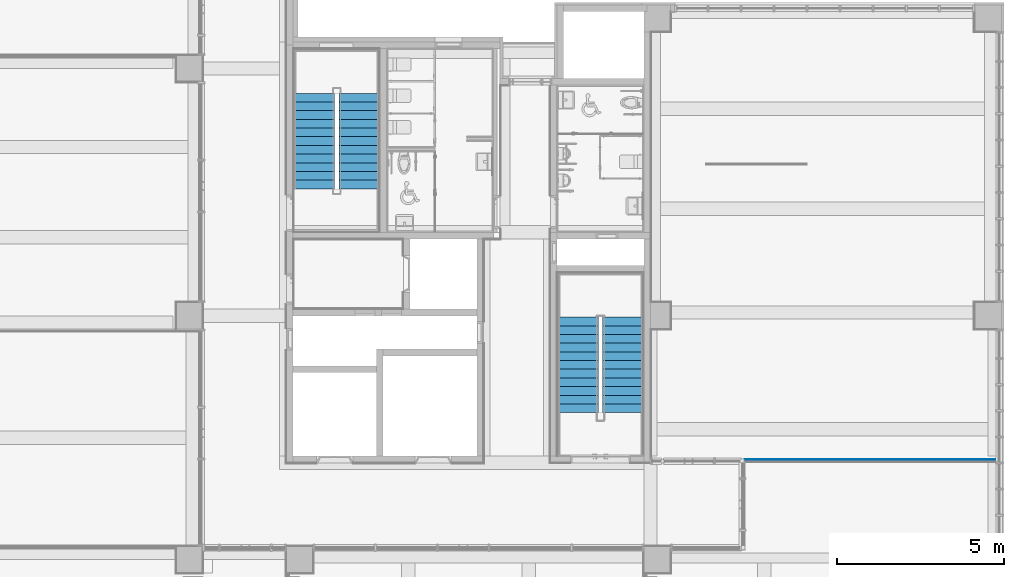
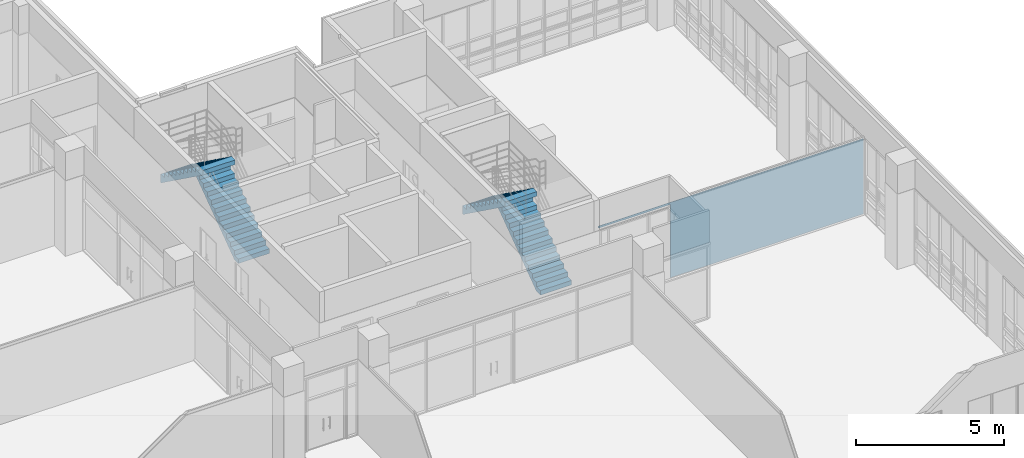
# One storey, part 65 of 74: 4 stair flights, 1 wall, 2 elements without a shape of their own.
"""IFC2X3 building model written with IfcOpenShell, lengths in millimetres."""

import ifcopenshell
import ifcopenshell.guid

model = None  # the IFC model being written
_history = None  # IfcOwnerHistory: only IFC2X3 demands one
_inside = {}  # id of a spatial element -> (the spatial element, [elements in it])
_under = {}  # id of a project, library or spatial element -> (it, [spatial elements below it])
_declared = {}  # id of a project -> (the project, [libraries it declares])
_typed = {}  # id of a type object -> (the type object, [elements of that type])
_made_of = {}  # id of a material, layer set ... -> (it, [elements and type objects made of it])


def new_model(schema):
    """Start an empty IFC model of exactly this schema.

    Asked for "IFC4X3", IfcOpenShell would pick the latest addendum, in which some entities
    have other attributes; the version numbers below select the first issue.
    IFC2X3 requires an IfcOwnerHistory on every rooted entity: one is made here for all.
    """
    global model, _history
    if schema == "IFC4X3":
        model = ifcopenshell.file(schema_version=(4, 3, 0, 0))
    else:
        model = ifcopenshell.file(schema=schema)
    _inside.clear()
    _under.clear()
    _declared.clear()
    _typed.clear()
    _made_of.clear()
    _history = None
    if model.schema == "IFC2X3":
        org = make("IfcOrganization", Name="unknown")
        user = make(
            "IfcPersonAndOrganization",
            ThePerson=make("IfcPerson", FamilyName="unknown"),
            TheOrganization=org,
        )
        app = make(
            "IfcApplication",
            ApplicationDeveloper=org,
            Version="unknown",
            ApplicationFullName="unknown",
            ApplicationIdentifier="unknown",
        )
        _history = make(
            "IfcOwnerHistory",
            OwningUser=user,
            OwningApplication=app,
            ChangeAction="ADDED",
            CreationDate=0,
        )
    return model


def make(cls, **values):
    """One entity of the class cls with the attributes given. An attribute that is None is left unset."""
    return model.create_entity(
        cls, **{name: value for name, value in values.items() if value is not None}
    )


def entity(cls, *values):
    """Any entity or typed value of the class cls, its attributes in the order of the schema. None: left unset."""
    e = model.create_entity(cls)
    for i, value in enumerate(values):
        if value is not None:
            e[i] = value
    return e


def rooted(cls, **values):
    """An entity with a GlobalId (a new one), such as an element, a storey or a relation."""
    return make(cls, GlobalId=ifcopenshell.guid.new(), OwnerHistory=_history, **values)


def si_unit(unit_type, name, prefix=None):
    """IfcSIUnit, for example si_unit("LENGTHUNIT", "METRE", prefix="MILLI")."""
    return make("IfcSIUnit", UnitType=unit_type, Prefix=prefix, Name=name)


def converted_unit(unit_type, name, factor, base, dimensions=None, offset=None):
    """IfcConversionBasedUnit, such as the inch: factor (a typed value) times the base unit."""
    return make(
        "IfcConversionBasedUnit"
        if offset is None
        else "IfcConversionBasedUnitWithOffset",
        ConversionOffset=offset,
        Dimensions=None
        if dimensions is None
        else entity("IfcDimensionalExponents", *dimensions),
        UnitType=unit_type,
        Name=name,
        ConversionFactor=make(
            "IfcMeasureWithUnit", ValueComponent=factor, UnitComponent=base
        ),
    )


def derived_unit(unit_type, elements):
    """IfcDerivedUnit: a product of units, each with its exponent."""
    return make(
        "IfcDerivedUnit",
        Elements=[
            make("IfcDerivedUnitElement", Unit=unit, Exponent=power)
            for unit, power in elements
        ],
        UnitType=unit_type,
    )


def assignment(units):
    """IfcUnitAssignment: the units of a project."""
    return None if units is None else make("IfcUnitAssignment", Units=units)


def point(xyz):
    """IfcCartesianPoint."""
    return None if xyz is None else make("IfcCartesianPoint", Coordinates=xyz)


def direction(xyz):
    """IfcDirection."""
    return None if xyz is None else make("IfcDirection", DirectionRatios=xyz)


def frame(location, z_axis=None, x_axis=None):
    """IfcAxis2Placement3D, a coordinate frame: its origin and axes. An axis left out is left unset."""
    return make(
        "IfcAxis2Placement3D",
        Location=point(location),
        Axis=direction(z_axis),
        RefDirection=direction(x_axis),
    )


def origin():
    """The frame at (0, 0, 0) with its axes left unset."""
    return frame((0.0, 0.0, 0.0))


def place(relative_to, where):
    """IfcLocalPlacement: puts the frame where relative to a parent placement (None: the world)."""
    return make(
        "IfcLocalPlacement", PlacementRelTo=relative_to, RelativePlacement=where
    )


def context(
    kind, dimensions, precision=None, world=None, true_north=None, identifier=None
):
    """IfcGeometricRepresentationContext, for example the 3D "Model" context."""
    return make(
        "IfcGeometricRepresentationContext",
        ContextIdentifier=identifier,
        ContextType=kind,
        CoordinateSpaceDimension=dimensions,
        Precision=precision,
        WorldCoordinateSystem=world,
        TrueNorth=true_north,
    )


def subcontext(parent, identifier, kind, view, scale=None):
    """IfcGeometricRepresentationSubContext, for example "Body" below "Model"."""
    return make(
        "IfcGeometricRepresentationSubContext",
        ContextIdentifier=identifier,
        ContextType=kind,
        ParentContext=parent,
        TargetScale=scale,
        TargetView=view,
    )


def project(units=None, contexts=None):
    """IfcProject with its units and contexts."""
    return rooted(
        "IfcProject",
        Name="project",
        RepresentationContexts=contexts,
        UnitsInContext=assignment(units),
    )


def spatial(cls, under=None, at=None, **own):
    """A site, building, storey or space (cls), placed at a placement, below another one or the project."""
    s = rooted(cls, ObjectPlacement=at, **own)
    if under is not None:
        _under.setdefault(under.id(), (under, []))[1].append(s)
    return s


def faces_of(points, faces, orient=None, outer=None):
    """IfcFace entities. A face is a list of loops; a loop is a list of indices into points, from 0.

    orient and outer hold one flag for each loop. By default every Orientation is true, the
    first loop of a face is its IfcFaceOuterBound and the others are IfcFaceBound.
    """
    made = []
    for i, loops in enumerate(faces):
        bounds = []
        for j, loop in enumerate(loops):
            is_outer = j == 0 if outer is None else outer[i][j]
            bounds.append(
                make(
                    "IfcFaceOuterBound" if is_outer else "IfcFaceBound",
                    Bound=make("IfcPolyLoop", Polygon=[points[k] for k in loop]),
                    Orientation=True if orient is None else orient[i][j],
                )
            )
        made.append(make("IfcFace", Bounds=bounds))
    return made


def faceted_brep(points, faces, orient=None, outer=None, voids=None):
    """IfcFacetedBrep: a solid bounded by flat faces; with voids (closed shells), ...WithVoids."""
    shared = [point(p) for p in points]
    hull = make("IfcClosedShell", CfsFaces=faces_of(shared, faces, orient, outer))
    if voids is None:
        return make("IfcFacetedBrep", Outer=hull)
    return make(
        "IfcFacetedBrepWithVoids",
        Outer=hull,
        Voids=[
            make(cls, CfsFaces=faces_of(shared, fs, o, b)) for cls, fs, o, b in voids
        ],
    )


def shape(context_of_items, identifier, shape_type, items):
    """IfcShapeRepresentation: the items that make up one representation, for example the "Body"."""
    return make(
        "IfcShapeRepresentation",
        ContextOfItems=context_of_items,
        RepresentationIdentifier=identifier,
        RepresentationType=shape_type,
        Items=items,
    )


def material(Name=None, Category=None):
    """IfcMaterial."""
    return make("IfcMaterial", Name=Name, Category=Category)


def layer(
    of_material, thickness, ventilated=None, Name=None, Category=None, Priority=None
):
    """IfcMaterialLayer: one layer of a wall or slab, of a material (None: an air gap)."""
    return make(
        "IfcMaterialLayer",
        Material=of_material,
        LayerThickness=thickness,
        IsVentilated=ventilated,
        Name=Name,
        Category=Category,
        Priority=Priority,
    )


def layer_set(layers, Name=None):
    """IfcMaterialLayerSet."""
    return make("IfcMaterialLayerSet", MaterialLayers=layers, LayerSetName=Name)


def made_of(thing, what):
    """Note that an element or type object is made of a material, layer set ...; save() writes the relation."""
    if what is not None:
        _made_of.setdefault(what.id(), (what, []))[1].append(thing)
    return thing


def type_object(cls, material=None, **own):
    """A type object (cls), such as IfcWallType, which elements share."""
    return made_of(rooted(cls, **own), material)


def element(
    cls,
    number,
    at=None,
    inside=None,
    cuts=None,
    type_object=None,
    material=None,
    context=None,
    identifier="Body",
    shape_type=None,
    held_by="IfcProductDefinitionShape",
    body=None,
    shapes=None,
    **own,
):
    """One element of the class cls, such as IfcWall. Its Tag is "e" and its number.

    at: its placement. inside: the storey or other place that contains it. cuts: it is an
    opening in that element (IfcRelVoidsElement). A single representation is given by context,
    identifier, shape_type and body (its items); several are given by shapes. held_by: the class
    of the entity that holds the representations. save() writes the other relations.
    """
    e = rooted(cls, Tag="e%d" % number, ObjectPlacement=at, **own)
    if body is not None:
        shapes = [shape(context, identifier, shape_type, body)]
    if shapes is not None:
        e.Representation = make(held_by, Representations=shapes)
    if inside is not None:
        _inside.setdefault(inside.id(), (inside, []))[1].append(e)
    if cuts is not None:
        rooted(
            "IfcRelVoidsElement", RelatingBuildingElement=cuts, RelatedOpeningElement=e
        )
    if type_object is not None:
        _typed.setdefault(type_object.id(), (type_object, []))[1].append(e)
    return made_of(e, material)


def aggregate(whole, parts):
    """IfcRelAggregates: a whole, such as a stair, and the parts it consists of."""
    return rooted("IfcRelAggregates", RelatingObject=whole, RelatedObjects=parts)


def save(model, path):
    """Write the relations noted so far, then the file.

    IfcRelAggregates (storeys below a building ...), IfcRelContainedInSpatialStructure (elements
    in a storey), IfcRelDefinesByType, IfcRelAssociatesMaterial and IfcRelDeclares: one each for
    every whole, place, type object, material and project.
    """
    for whole, parts in _under.values():
        aggregate(whole, parts)
    for where, things in _inside.values():
        rooted(
            "IfcRelContainedInSpatialStructure",
            RelatedElements=things,
            RelatingStructure=where,
        )
    for kind, things in _typed.values():
        rooted("IfcRelDefinesByType", RelatedObjects=things, RelatingType=kind)
    for what, things in _made_of.values():
        rooted("IfcRelAssociatesMaterial", RelatedObjects=things, RelatingMaterial=what)
    for by, libraries in _declared.values():
        rooted("IfcRelDeclares", RelatingContext=by, RelatedDefinitions=libraries)
    model.write(path)


model = new_model("IFC2X3")

# Units and contexts
model_context = context("Model", 3, precision=0.01, world=origin(), true_north=direction((6.123031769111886e-17, 1.0)))
body_context = subcontext(model_context, "Body", "Model", "MODEL_VIEW")
ifc_project = project(units=[si_unit("LENGTHUNIT", "METRE", prefix="MILLI"), si_unit("AREAUNIT", "SQUARE_METRE"), si_unit("VOLUMEUNIT", "CUBIC_METRE"), converted_unit("PLANEANGLEUNIT", "DEGREE", entity("IfcRatioMeasure", 0.017453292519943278), si_unit("PLANEANGLEUNIT", "RADIAN"), dimensions=[0, 0, 0, 0, 0, 0, 0]), si_unit("MASSUNIT", "GRAM", prefix="KILO"), derived_unit("MASSDENSITYUNIT", [(si_unit("MASSUNIT", "GRAM", prefix="KILO"), 1), (si_unit("LENGTHUNIT", "METRE"), -3)]), derived_unit("MOMENTOFINERTIAUNIT", [(si_unit("LENGTHUNIT", "METRE"), 4)]), si_unit("TIMEUNIT", "SECOND"), si_unit("FREQUENCYUNIT", "HERTZ"), si_unit("THERMODYNAMICTEMPERATUREUNIT", "DEGREE_CELSIUS"), derived_unit("THERMALTRANSMITTANCEUNIT", [(si_unit("MASSUNIT", "GRAM", prefix="KILO"), 1), (si_unit("THERMODYNAMICTEMPERATUREUNIT", "KELVIN"), -1), (si_unit("TIMEUNIT", "SECOND"), -3)]), derived_unit("VOLUMETRICFLOWRATEUNIT", [(si_unit("LENGTHUNIT", "METRE"), 3), (si_unit("TIMEUNIT", "SECOND"), -1)]), derived_unit("MASSFLOWRATEUNIT", [(si_unit("MASSUNIT", "GRAM", prefix="KILO"), 1), (si_unit("TIMEUNIT", "SECOND"), -1)]), derived_unit("ROTATIONALFREQUENCYUNIT", [(si_unit("TIMEUNIT", "SECOND"), -1)]), si_unit("ELECTRICCURRENTUNIT", "AMPERE"), si_unit("ELECTRICVOLTAGEUNIT", "VOLT"), si_unit("POWERUNIT", "WATT"), si_unit("FORCEUNIT", "NEWTON", prefix="KILO"), si_unit("ILLUMINANCEUNIT", "LUX"), si_unit("LUMINOUSFLUXUNIT", "LUMEN"), si_unit("LUMINOUSINTENSITYUNIT", "CANDELA"), derived_unit("USERDEFINED", [(si_unit("MASSUNIT", "GRAM", prefix="KILO"), -1), (si_unit("LENGTHUNIT", "METRE"), -2), (si_unit("TIMEUNIT", "SECOND"), 3), (si_unit("LUMINOUSFLUXUNIT", "LUMEN"), 1)]), derived_unit("SOUNDPOWERUNIT", [(si_unit("MASSUNIT", "GRAM", prefix="KILO"), 1), (si_unit("LENGTHUNIT", "METRE"), 2), (si_unit("TIMEUNIT", "SECOND"), -3)]), derived_unit("SOUNDPRESSUREUNIT", [(si_unit("MASSUNIT", "GRAM", prefix="KILO"), 1), (si_unit("LENGTHUNIT", "METRE"), -1), (si_unit("TIMEUNIT", "SECOND"), -2)]), derived_unit("LINEARVELOCITYUNIT", [(si_unit("LENGTHUNIT", "METRE"), 1), (si_unit("TIMEUNIT", "SECOND"), -1)]), si_unit("PRESSUREUNIT", "PASCAL"), derived_unit("USERDEFINED", [(si_unit("LENGTHUNIT", "METRE"), -2), (si_unit("MASSUNIT", "GRAM", prefix="KILO"), 1), (si_unit("TIMEUNIT", "SECOND"), -2)]), derived_unit("LINEARFORCEUNIT", [(si_unit("MASSUNIT", "GRAM", prefix="KILO"), 1), (si_unit("LENGTHUNIT", "METRE"), 1), (si_unit("TIMEUNIT", "SECOND"), -2), (si_unit("LENGTHUNIT", "METRE"), -1)]), derived_unit("PLANARFORCEUNIT", [(si_unit("MASSUNIT", "GRAM", prefix="KILO"), 1), (si_unit("LENGTHUNIT", "METRE"), 1), (si_unit("TIMEUNIT", "SECOND"), -2), (si_unit("LENGTHUNIT", "METRE"), -2)])], contexts=[model_context])

# Site, building, storey
site_placement = place(None, frame((-14167.972527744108, -657.2125860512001, 0.0)))
site = spatial("IfcSite", under=ifc_project, at=site_placement, Name="Default", CompositionType="ELEMENT")
building_placement = place(site_placement, origin())
building = spatial("IfcBuilding", under=site, at=building_placement, Name="Sample Building", CompositionType="ELEMENT")
storey_placement = place(building_placement, frame((0.0, 0.0, 4800.0)))
storey = spatial("IfcBuildingStorey", under=building, at=storey_placement, Name="지상 2층", CompositionType="ELEMENT", Elevation=4800.000000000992)

# Wall
ifc_material_1 = material(Name="WA611-수성페인트 (내부) 벽 (3회)")
ifc_layer_1 = layer(ifc_material_1, 1.0)
ifc_material_2 = material(Name="WA551-시멘트모르타르 (내부) 벽 18mm")
ifc_layer_2 = layer(ifc_material_2, 16.0)
ifc_material_3 = material(Name="WA555-콘크리트면정리 벽 (내부)")
ifc_layer_3 = layer(ifc_material_3, 1.0)
ifc_layer_set = layer_set([ifc_layer_1, ifc_layer_2, ifc_layer_3], Name="기본 벽:A1-32-06A-콘크리트면정리, 시멘트모르타르(미장용), 수성페인트(내부) (18mm)")
wall_type = type_object("IfcWallType", Name="기본 벽:A1-32-06A-콘크리트면정리, 시멘트모르타르(미장용), 수성페인트(내부) (18mm)", PredefinedType="STANDARD", material=ifc_layer_set)
wall_placement = place(storey_placement, frame((40985.96379814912, 15661.177678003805, 80.0)))
element("IfcWall", 1, at=wall_placement, inside=storey, type_object=wall_type, Name="기본 벽:A1-32-06A-콘크리트면정리, 시멘트모르타르(미장용), 수성페인트(내부) (18mm)", ObjectType="기본 벽:A1-32-06A-콘크리트면정리, 시멘트모르타르(미장용), 수성페인트(내부) (18mm)", context=body_context, shape_type="Brep", body=[
    faceted_brep([(10319.500030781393, -9.0, 0.0), (10319.500030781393, -9.0, 3100.0), (0.0, -9.0, 3100.0), (0.0, -9.0, 3020.0), (2777.0086929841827, -9.0, 3020.0), (2800.008692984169, -9.0, 3020.0), (2800.008692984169, -9.0, 0.0), (10319.500030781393, 9.0, 3100.0), (10319.500030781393, 9.0, 0.0), (2800.008692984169, 9.0, 0.0), (2800.008692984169, 9.0, 3020.0), (0.0, 9.0, 3020.0), (0.0, 9.0, 3100.0)], [[[0, 1, 2, 3, 4, 5, 6]], [[7, 8, 9, 10, 11, 12]], [[8, 0, 6, 9]], [[1, 0, 8, 7]], [[2, 1, 7, 12]], [[2, 12, 11, 3]], [[5, 10, 9, 6]], [[10, 5, 4, 3, 11]]]),
])

# Stair, stair flights
stair_1_placement = place(storey_placement, origin())
stair_1 = element("IfcStair", 2, at=stair_1_placement, inside=storey, Name="현장타설 계단:계단", ObjectType="현장타설 계단:ST111-철근콘크리트구조 계단 (U형)", ShapeType="NOTDEFINED")
ifc_material_4 = material(Name="KBIMS-콘크리트")
stair_flight_type_1 = type_object("IfcStairFlightType", Name="일체형 계단진행:일체형 계단진행 150mm_철근콘크리트", PredefinedType="STRAIGHT")
stair_flight_1_placement = place(stair_1_placement, frame((31642.972475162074, 23757.17766047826, 0.0)))
stair_flight_1 = element("IfcStairFlight", 3, at=stair_flight_1_placement, type_object=stair_flight_type_1, material=ifc_material_4, Name="현장타설 계단:계단:5948802 Run 1", ObjectType="일체형 계단진행:일체형 계단진행 150mm_철근콘크리트", NumberOfRiser=12, NumberOfTreads=11, RiserHeight=0.6151574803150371, TreadLength=0.8530183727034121, context=body_context, shape_type="Brep", body=[
    faceted_brep([(0.0, 260.0, 187.49999999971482), (0.0, 0.0, 187.49999999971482), (1223.1455158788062, 0.0, 187.49999999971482), (1223.1455158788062, 260.0, 187.49999999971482), (0.0, 260.0, 2.5637553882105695), (0.0, 256.4449258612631, 0.0), (0.0, 0.0, 0.0), (1223.1455158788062, 0.0, 0.0), (1223.1455158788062, 256.4449258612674, 0.0), (1223.1455158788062, 260.0, 2.5637553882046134), (0.0, 520.0, 375.0), (0.0, 260.0, 375.0), (1223.1455158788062, 260.0, 375.0), (1223.1455158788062, 520.0, 375.0), (0.0, 520.0, 190.06375538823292), (1223.1455158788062, 520.0, 190.0637553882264), (0.0, 780.0, 562.4999999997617), (0.0, 520.0, 562.4999999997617), (1223.1455158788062, 520.0, 562.4999999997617), (1223.1455158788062, 780.0, 562.4999999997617), (0.0, 780.0, 377.56375538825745), (1223.1455158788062, 780.0, 377.5637553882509), (0.0, 1040.0, 750.0), (0.0, 780.0, 750.0), (1223.1455158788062, 780.0, 750.0), (1223.1455158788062, 1040.0, 750.0), (0.0, 1040.0, 565.0637553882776), (1223.1455158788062, 1040.0, 565.0637553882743), (0.0, 1300.0, 937.4999999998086), (0.0, 1040.0, 937.4999999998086), (1223.1455158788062, 1040.0, 937.4999999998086), (1223.1455158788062, 1300.0, 937.4999999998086), (0.0, 1300.0, 752.5637553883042), (1223.1455158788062, 1300.0, 752.5637553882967), (0.0, 1560.0, 1125.0), (0.0, 1300.0, 1125.0), (1223.1455158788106, 1300.0, 1125.0), (1223.1455158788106, 1560.0, 1125.0), (0.0, 1560.0, 940.0637553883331), (1223.1455158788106, 1560.0, 940.0637553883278), (0.0, 1820.0, 1312.4999999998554), (0.0, 1560.0, 1312.4999999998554), (1223.1455158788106, 1560.0, 1312.4999999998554), (1223.1455158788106, 1820.0, 1312.4999999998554), (0.0, 1820.0, 1127.5637553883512), (1223.1455158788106, 1820.0, 1127.5637553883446), (0.0, 2080.0, 1500.0), (0.0, 1820.0, 1500.0), (1223.1455158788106, 1820.0, 1500.0), (1223.1455158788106, 2080.0, 1500.0), (0.0, 2080.0, 1315.0637553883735), (1223.1455158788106, 2080.0, 1315.063755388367), (0.0, 2340.0, 1687.4999999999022), (0.0, 2080.0, 1687.4999999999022), (1223.1455158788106, 2080.0, 1687.4999999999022), (1223.1455158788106, 2340.0, 1687.4999999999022), (0.0, 2340.0, 1502.5637553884), (1223.1455158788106, 2340.0, 1502.5637553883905), (0.0, 2600.0, 1875.0), (0.0, 2340.0, 1875.0), (1223.1455158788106, 2340.0, 1875.0), (1223.1455158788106, 2600.0, 1875.0), (0.0, 2600.0, 1690.0637553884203), (1223.1455158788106, 2600.0, 1690.0637553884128), (0.0, 2860.0, 2062.499999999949), (0.0, 2600.0, 2062.499999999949), (1223.1455158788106, 2600.0, 2062.499999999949), (1223.1455158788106, 2860.0, 2062.499999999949), (0.0, 2860.0, 1877.5637553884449), (1223.1455158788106, 2860.0, 1877.5637553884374)], [[[0, 1, 2, 3]], [[1, 0, 4, 5, 6]], [[2, 1, 6, 7]], [[3, 2, 7, 8, 9]], [[10, 11, 12, 13]], [[11, 10, 14, 4, 0]], [[0, 3, 12, 11]], [[13, 12, 3, 9, 15]], [[16, 17, 18, 19]], [[17, 16, 20, 14, 10]], [[10, 13, 18, 17]], [[19, 18, 13, 15, 21]], [[22, 23, 24, 25]], [[23, 22, 26, 20, 16]], [[16, 19, 24, 23]], [[25, 24, 19, 21, 27]], [[28, 29, 30, 31]], [[29, 28, 32, 26, 22]], [[22, 25, 30, 29]], [[31, 30, 25, 27, 33]], [[34, 35, 36, 37]], [[35, 34, 38, 32, 28]], [[28, 31, 36, 35]], [[37, 36, 31, 33, 39]], [[40, 41, 42, 43]], [[41, 40, 44, 38, 34]], [[34, 37, 42, 41]], [[43, 42, 37, 39, 45]], [[46, 47, 48, 49]], [[47, 46, 50, 44, 40]], [[40, 43, 48, 47]], [[49, 48, 43, 45, 51]], [[52, 53, 54, 55]], [[53, 52, 56, 50, 46]], [[46, 49, 54, 53]], [[55, 54, 49, 51, 57]], [[58, 59, 60, 61]], [[59, 58, 62, 56, 52]], [[52, 55, 60, 59]], [[61, 60, 55, 57, 63]], [[64, 65, 66, 67]], [[65, 64, 68, 62, 58]], [[58, 61, 66, 65]], [[67, 66, 61, 63, 69]], [[64, 67, 69, 68]], [[7, 6, 5, 8]], [[8, 5, 4, 14, 20, 26, 32, 38, 44, 50, 56, 62, 68, 69, 63, 57, 51, 45, 39, 33, 27, 21, 15, 9]]]),
])
stair_flight_type_2 = type_object("IfcStairFlightType", Name="일체형 계단진행:일체형 계단진행 150mm_철근콘크리트", PredefinedType="STRAIGHT")
stair_flight_2_placement = place(stair_1_placement, frame((30267.963761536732, 23757.17766047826, 0.0)))
stair_flight_2 = element("IfcStairFlight", 4, at=stair_flight_2_placement, type_object=stair_flight_type_2, material=ifc_material_4, Name="현장타설 계단:계단:5948802 Run 2", ObjectType="일체형 계단진행:일체형 계단진행 150mm_철근콘크리트", NumberOfRiser=12, NumberOfTreads=11, RiserHeight=0.6151574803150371, TreadLength=0.8530183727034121, context=body_context, shape_type="Brep", body=[
    faceted_brep([(1248.162052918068, 2860.0, 2437.4999999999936), (0.0, 2860.0, 2437.4999999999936), (0.0, 2811.555074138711, 2437.4999999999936), (0.0, 2600.0, 2437.4999999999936), (1248.162052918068, 2600.0, 2437.4999999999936), (1248.162052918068, 2811.555074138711, 2437.4999999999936), (1248.162052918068, 2600.0, 2252.5637553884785), (1248.162052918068, 2811.555074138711, 2100.0), (1248.162052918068, 2860.0, 2100.0), (0.0, 2860.0, 2100.0), (0.0, 2860.0, 2250.0), (0.0, 2811.5550741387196, 2100.0), (0.0, 2600.0, 2252.563755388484), (1248.162052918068, 2340.0, 2625.0), (1248.162052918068, 2600.0, 2625.0), (0.0, 2600.0, 2625.0), (0.0, 2340.0, 2625.0), (1248.162052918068, 2340.0, 2440.063755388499), (0.0, 2340.0, 2440.0637553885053), (1248.162052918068, 2080.0, 2812.5000000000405), (1248.162052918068, 2340.0, 2812.5000000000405), (0.0, 2340.0, 2812.5000000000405), (0.0, 2080.0, 2812.5000000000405), (1248.162052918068, 2080.0, 2627.563755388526), (0.0, 2080.0, 2627.56375538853), (1248.162052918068, 1820.0, 3000.0), (1248.162052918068, 2080.0, 3000.0), (0.0, 2080.0, 3000.0), (0.0, 1820.0, 3000.0), (1248.162052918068, 1820.0, 2815.06375538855), (0.0, 1820.0, 2815.0637553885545), (1248.162052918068, 1560.0, 3187.5000000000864), (1248.162052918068, 1820.0, 3187.5000000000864), (0.0, 1820.0, 3187.5000000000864), (0.0, 1560.0, 3187.5000000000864), (1248.162052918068, 1560.0, 3002.5637553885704), (0.0, 1560.0, 3002.563755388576), (1248.1620529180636, 1300.0, 3375.0), (1248.1620529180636, 1560.0, 3375.0), (0.0, 1560.0, 3375.0), (0.0, 1300.0, 3375.0), (1248.1620529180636, 1300.0, 3190.0637553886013), (0.0, 1300.0, 3190.0637553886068), (1248.1620529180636, 1040.0, 3562.5000000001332), (1248.1620529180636, 1300.0, 3562.5000000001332), (0.0, 1300.0, 3562.5000000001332), (0.0, 1040.0, 3562.5000000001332), (1248.1620529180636, 1040.0, 3377.5637553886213), (0.0, 1040.0, 3377.563755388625), (1248.1620529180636, 780.0, 3750.0), (1248.1620529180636, 1040.0, 3750.0), (0.0, 1040.0, 3750.0), (0.0, 780.0, 3750.0), (1248.1620529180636, 780.0, 3565.0637553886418), (0.0, 780.0, 3565.063755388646), (1248.1620529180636, 520.0, 3937.50000000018), (1248.1620529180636, 780.0, 3937.50000000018), (0.0, 780.0, 3937.50000000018), (0.0, 520.0, 3937.50000000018), (1248.1620529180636, 520.0, 3752.5637553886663), (0.0, 520.0, 3752.5637553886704), (1248.1620529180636, 260.0, 4125.0), (1248.1620529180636, 520.0, 4125.0), (0.0, 520.0, 4125.0), (0.0, 260.0, 4125.0), (1248.1620529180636, 260.0, 3940.0637553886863), (0.0, 260.0, 3940.063755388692), (1248.1620529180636, 0.0, 4312.500000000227), (1248.1620529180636, 260.0, 4312.500000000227), (0.0, 260.0, 4312.500000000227), (0.0, 0.0, 4312.500000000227), (1248.1620529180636, 0.0, 4127.563755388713), (0.0, 0.0, 4127.563755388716)], [[[0, 1, 2, 3, 4, 5]], [[4, 6, 7, 8, 0, 5]], [[1, 0, 8, 9, 10]], [[1, 10, 9, 11, 12, 3, 2]], [[13, 14, 15, 16]], [[14, 13, 17, 6, 4]], [[15, 14, 4, 3]], [[16, 15, 3, 12, 18]], [[19, 20, 21, 22]], [[20, 19, 23, 17, 13]], [[21, 20, 13, 16]], [[22, 21, 16, 18, 24]], [[25, 26, 27, 28]], [[26, 25, 29, 23, 19]], [[27, 26, 19, 22]], [[28, 27, 22, 24, 30]], [[31, 32, 33, 34]], [[32, 31, 35, 29, 25]], [[33, 32, 25, 28]], [[34, 33, 28, 30, 36]], [[37, 38, 39, 40]], [[38, 37, 41, 35, 31]], [[39, 38, 31, 34]], [[40, 39, 34, 36, 42]], [[43, 44, 45, 46]], [[44, 43, 47, 41, 37]], [[45, 44, 37, 40]], [[46, 45, 40, 42, 48]], [[49, 50, 51, 52]], [[50, 49, 53, 47, 43]], [[51, 50, 43, 46]], [[52, 51, 46, 48, 54]], [[55, 56, 57, 58]], [[56, 55, 59, 53, 49]], [[57, 56, 49, 52]], [[58, 57, 52, 54, 60]], [[61, 62, 63, 64]], [[62, 61, 65, 59, 55]], [[63, 62, 55, 58]], [[64, 63, 58, 60, 66]], [[67, 68, 69, 70]], [[68, 67, 71, 65, 61]], [[69, 68, 61, 64]], [[70, 69, 64, 66, 72]], [[67, 70, 72, 71]], [[11, 7, 6, 17, 23, 29, 35, 41, 47, 53, 59, 65, 71, 72, 66, 60, 54, 48, 42, 36, 30, 24, 18, 12]], [[7, 11, 9, 8]]]),
])
aggregate(stair_1, [stair_flight_1, stair_flight_2])

stair_2_placement = place(storey_placement, origin())
stair_2 = element("IfcStair", 5, at=stair_2_placement, inside=storey, Name="현장타설 계단:계단", ObjectType="현장타설 계단:ST111-철근콘크리트구조 계단 (U형)", ShapeType="NOTDEFINED")
stair_flight_type_3 = type_object("IfcStairFlightType", Name="일체형 계단진행:일체형 계단진행 150mm_철근콘크리트", PredefinedType="STRAIGHT")
stair_flight_3_placement = place(stair_2_placement, frame((39534.810458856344, 17057.17764428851, 0.0)))
stair_flight_3 = element("IfcStairFlight", 6, at=stair_flight_3_placement, type_object=stair_flight_type_3, material=ifc_material_4, Name="현장타설 계단:계단:5959476 Run 1", ObjectType="일체형 계단진행:일체형 계단진행 150mm_철근콘크리트", NumberOfRiser=12, NumberOfTreads=11, RiserHeight=0.6151574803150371, TreadLength=0.8530183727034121, context=body_context, shape_type="Brep", body=[
    faceted_brep([(0.0, 260.0, 187.49999999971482), (0.0, 0.0, 187.49999999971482), (1223.1455158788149, 0.0, 187.49999999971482), (1223.1455158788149, 260.0, 187.49999999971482), (0.0, 260.0, 2.563755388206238), (0.0, 256.44492586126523, 0.0), (0.0, 0.0, 0.0), (1223.1455158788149, 0.0, 0.0), (1223.1455158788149, 256.44492586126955, 0.0), (1223.1455158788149, 260.0, 2.5637553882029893), (0.0, 520.0, 375.0), (0.0, 260.0, 375.0), (1223.1455158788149, 260.0, 375.0), (1223.1455158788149, 520.0, 375.0), (0.0, 520.0, 190.06375538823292), (1223.1455158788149, 520.0, 190.0637553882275), (0.0, 780.0, 562.4999999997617), (0.0, 520.0, 562.4999999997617), (1223.1455158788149, 520.0, 562.4999999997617), (1223.1455158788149, 780.0, 562.4999999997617), (0.0, 780.0, 377.5637553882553), (1223.1455158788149, 780.0, 377.5637553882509), (0.0, 1040.0, 750.0), (0.0, 780.0, 750.0), (1223.1455158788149, 780.0, 750.0), (1223.1455158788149, 1040.0, 750.0), (0.0, 1040.0, 565.0637553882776), (1223.1455158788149, 1040.0, 565.0637553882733), (0.0, 1300.0, 937.4999999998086), (0.0, 1040.0, 937.4999999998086), (1223.1455158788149, 1040.0, 937.4999999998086), (1223.1455158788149, 1300.0, 937.4999999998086), (0.0, 1300.0, 752.5637553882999), (1223.1455158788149, 1300.0, 752.5637553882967), (0.0, 1560.0, 1125.0), (0.0, 1300.0, 1125.0), (1223.1455158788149, 1300.0, 1125.0), (1223.1455158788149, 1560.0, 1125.0), (0.0, 1560.0, 940.0637553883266), (1223.1455158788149, 1560.0, 940.0637553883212), (0.0, 1820.0, 1312.4999999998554), (0.0, 1560.0, 1312.4999999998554), (1223.1455158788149, 1560.0, 1312.4999999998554), (1223.1455158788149, 1820.0, 1312.4999999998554), (0.0, 1820.0, 1127.563755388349), (1223.1455158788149, 1820.0, 1127.5637553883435), (0.0, 2080.0, 1500.0), (0.0, 1820.0, 1500.0), (1223.1455158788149, 1820.0, 1500.0), (1223.1455158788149, 2080.0, 1500.0), (0.0, 2080.0, 1315.0637553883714), (1223.1455158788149, 2080.0, 1315.063755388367), (0.0, 2340.0, 1687.4999999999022), (0.0, 2080.0, 1687.4999999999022), (1223.1455158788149, 2080.0, 1687.4999999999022), (1223.1455158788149, 2340.0, 1687.4999999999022), (0.0, 2340.0, 1502.5637553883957), (1223.1455158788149, 2340.0, 1502.5637553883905), (0.0, 2600.0, 1875.0), (0.0, 2340.0, 1875.0), (1223.1455158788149, 2340.0, 1875.0), (1223.1455158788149, 2600.0, 1875.0), (0.0, 2600.0, 1690.0637553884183), (1223.1455158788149, 2600.0, 1690.0637553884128), (0.0, 2860.0, 2062.499999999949), (0.0, 2600.0, 2062.499999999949), (1223.1455158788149, 2600.0, 2062.499999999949), (1223.1455158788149, 2860.0, 2062.499999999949), (0.0, 2860.0, 1877.5637553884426), (1223.1455158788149, 2860.0, 1877.5637553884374)], [[[0, 1, 2, 3]], [[1, 0, 4, 5, 6]], [[2, 1, 6, 7]], [[3, 2, 7, 8, 9]], [[10, 11, 12, 13]], [[11, 10, 14, 4, 0]], [[0, 3, 12, 11]], [[13, 12, 3, 9, 15]], [[16, 17, 18, 19]], [[17, 16, 20, 14, 10]], [[10, 13, 18, 17]], [[19, 18, 13, 15, 21]], [[22, 23, 24, 25]], [[23, 22, 26, 20, 16]], [[16, 19, 24, 23]], [[25, 24, 19, 21, 27]], [[28, 29, 30, 31]], [[29, 28, 32, 26, 22]], [[22, 25, 30, 29]], [[31, 30, 25, 27, 33]], [[34, 35, 36, 37]], [[35, 34, 38, 32, 28]], [[28, 31, 36, 35]], [[37, 36, 31, 33, 39]], [[40, 41, 42, 43]], [[41, 40, 44, 38, 34]], [[34, 37, 42, 41]], [[43, 42, 37, 39, 45]], [[46, 47, 48, 49]], [[47, 46, 50, 44, 40]], [[40, 43, 48, 47]], [[49, 48, 43, 45, 51]], [[52, 53, 54, 55]], [[53, 52, 56, 50, 46]], [[46, 49, 54, 53]], [[55, 54, 49, 51, 57]], [[58, 59, 60, 61]], [[59, 58, 62, 56, 52]], [[52, 55, 60, 59]], [[61, 60, 55, 57, 63]], [[64, 65, 66, 67]], [[65, 64, 68, 62, 58]], [[58, 61, 66, 65]], [[67, 66, 61, 63, 69]], [[64, 67, 69, 68]], [[7, 6, 5, 8]], [[8, 5, 4, 14, 20, 26, 32, 38, 44, 50, 56, 62, 68, 69, 63, 57, 51, 45, 39, 33, 27, 21, 15, 9]]]),
])
stair_flight_type_4 = type_object("IfcStairFlightType", Name="일체형 계단진행:일체형 계단진행 150mm_철근콘크리트", PredefinedType="STRAIGHT")
stair_flight_4_placement = place(stair_2_placement, frame((38159.80174523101, 17057.17764428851, 0.0)))
stair_flight_4 = element("IfcStairFlight", 7, at=stair_flight_4_placement, type_object=stair_flight_type_4, material=ifc_material_4, Name="현장타설 계단:계단:5959476 Run 2", ObjectType="일체형 계단진행:일체형 계단진행 150mm_철근콘크리트", NumberOfRiser=12, NumberOfTreads=11, RiserHeight=0.6151574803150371, TreadLength=0.8530183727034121, context=body_context, shape_type="Brep", body=[
    faceted_brep([(1248.1620529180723, 2860.0, 2437.4999999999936), (0.0, 2860.0, 2437.4999999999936), (0.0, 2811.555074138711, 2437.4999999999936), (0.0, 2600.0, 2437.4999999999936), (1248.1620529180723, 2600.0, 2437.4999999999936), (1248.1620529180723, 2811.555074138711, 2437.4999999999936), (1248.1620529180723, 2600.0, 2252.5637553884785), (1248.1620529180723, 2811.555074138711, 2100.0), (1248.1620529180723, 2860.0, 2100.0), (0.0, 2860.0, 2100.0), (0.0, 2860.0, 2250.0), (0.0, 2811.555074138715, 2100.0), (0.0, 2600.0, 2252.563755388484), (1248.1620529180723, 2340.0, 2625.0), (1248.1620529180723, 2600.0, 2625.0), (0.0, 2600.0, 2625.0), (0.0, 2340.0, 2625.0), (1248.1620529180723, 2340.0, 2440.0637553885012), (0.0, 2340.0, 2440.0637553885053), (1248.1620529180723, 2080.0, 2812.5000000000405), (1248.1620529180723, 2340.0, 2812.5000000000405), (0.0, 2340.0, 2812.5000000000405), (0.0, 2080.0, 2812.5000000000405), (1248.1620529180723, 2080.0, 2627.5637553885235), (0.0, 2080.0, 2627.563755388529), (1248.1620529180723, 1820.0, 3000.0), (1248.1620529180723, 2080.0, 3000.0), (0.0, 2080.0, 3000.0), (0.0, 1820.0, 3000.0), (1248.1620529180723, 1820.0, 2815.063755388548), (0.0, 1820.0, 2815.0637553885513), (1248.1620529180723, 1560.0, 3187.5000000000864), (1248.1620529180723, 1820.0, 3187.5000000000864), (0.0, 1820.0, 3187.5000000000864), (0.0, 1560.0, 3187.5000000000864), (1248.1620529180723, 1560.0, 3002.563755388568), (0.0, 1560.0, 3002.5637553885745), (1248.1620529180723, 1300.0, 3375.0), (1248.1620529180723, 1560.0, 3375.0), (0.0, 1560.0, 3375.0), (0.0, 1300.0, 3375.0), (1248.1620529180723, 1300.0, 3190.0637553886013), (0.0, 1300.0, 3190.0637553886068), (1248.1620529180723, 1040.0, 3562.5000000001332), (1248.1620529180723, 1300.0, 3562.5000000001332), (0.0, 1300.0, 3562.5000000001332), (0.0, 1040.0, 3562.5000000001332), (1248.1620529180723, 1040.0, 3377.563755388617), (0.0, 1040.0, 3377.5637553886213), (1248.1620529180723, 780.0, 3750.0), (1248.1620529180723, 1040.0, 3750.0), (0.0, 1040.0, 3750.0), (0.0, 780.0, 3750.0), (1248.1620529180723, 780.0, 3565.0637553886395), (0.0, 780.0, 3565.063755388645), (1248.1620529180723, 520.0, 3937.50000000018), (1248.1620529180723, 780.0, 3937.50000000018), (0.0, 780.0, 3937.50000000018), (0.0, 520.0, 3937.50000000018), (1248.1620529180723, 520.0, 3752.563755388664), (0.0, 520.0, 3752.5637553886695), (1248.1620529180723, 260.0, 4125.0), (1248.1620529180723, 520.0, 4125.0), (0.0, 520.0, 4125.0), (0.0, 260.0, 4125.0), (1248.1620529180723, 260.0, 3940.063755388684), (0.0, 260.0, 3940.063755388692), (1248.1620529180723, 0.0, 4312.500000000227), (1248.1620529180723, 260.0, 4312.500000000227), (0.0, 260.0, 4312.500000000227), (0.0, 0.0, 4312.500000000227), (1248.1620529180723, 0.0, 4127.563755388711), (0.0, 0.0, 4127.563755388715)], [[[0, 1, 2, 3, 4, 5]], [[4, 6, 7, 8, 0, 5]], [[1, 0, 8, 9, 10]], [[1, 10, 9, 11, 12, 3, 2]], [[13, 14, 15, 16]], [[14, 13, 17, 6, 4]], [[15, 14, 4, 3]], [[16, 15, 3, 12, 18]], [[19, 20, 21, 22]], [[20, 19, 23, 17, 13]], [[21, 20, 13, 16]], [[22, 21, 16, 18, 24]], [[25, 26, 27, 28]], [[26, 25, 29, 23, 19]], [[27, 26, 19, 22]], [[28, 27, 22, 24, 30]], [[31, 32, 33, 34]], [[32, 31, 35, 29, 25]], [[33, 32, 25, 28]], [[34, 33, 28, 30, 36]], [[37, 38, 39, 40]], [[38, 37, 41, 35, 31]], [[39, 38, 31, 34]], [[40, 39, 34, 36, 42]], [[43, 44, 45, 46]], [[44, 43, 47, 41, 37]], [[45, 44, 37, 40]], [[46, 45, 40, 42, 48]], [[49, 50, 51, 52]], [[50, 49, 53, 47, 43]], [[51, 50, 43, 46]], [[52, 51, 46, 48, 54]], [[55, 56, 57, 58]], [[56, 55, 59, 53, 49]], [[57, 56, 49, 52]], [[58, 57, 52, 54, 60]], [[61, 62, 63, 64]], [[62, 61, 65, 59, 55]], [[63, 62, 55, 58]], [[64, 63, 58, 60, 66]], [[67, 68, 69, 70]], [[68, 67, 71, 65, 61]], [[69, 68, 61, 64]], [[70, 69, 64, 66, 72]], [[67, 70, 72, 71]], [[11, 7, 6, 17, 23, 29, 35, 41, 47, 53, 59, 65, 71, 72, 66, 60, 54, 48, 42, 36, 30, 24, 18, 12]], [[7, 11, 9, 8]]]),
])
aggregate(stair_2, [stair_flight_3, stair_flight_4])

save(model, "model.ifc")
